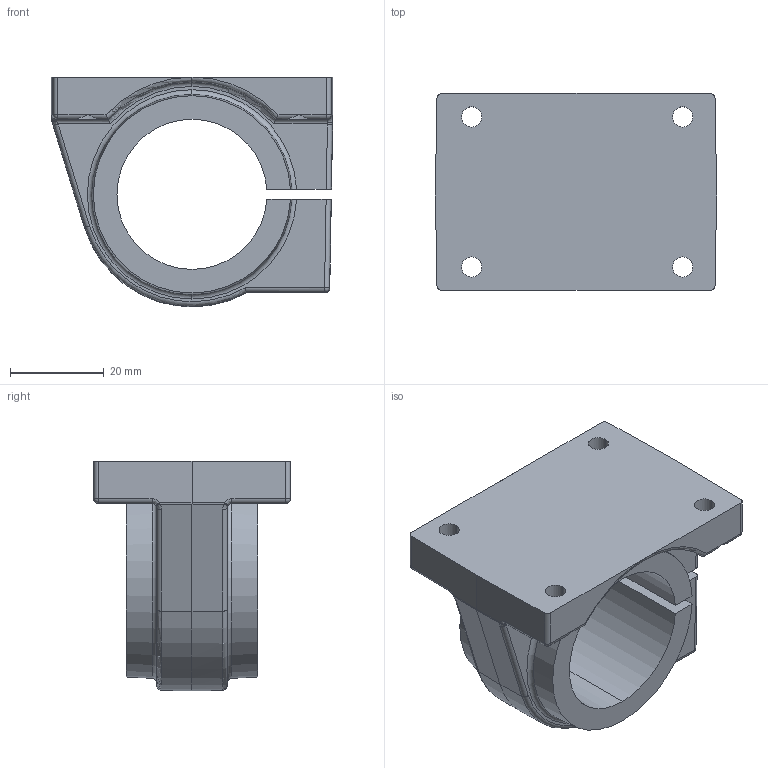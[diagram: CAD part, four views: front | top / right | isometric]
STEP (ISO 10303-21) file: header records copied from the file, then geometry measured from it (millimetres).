
FILE_DESCRIPTION (( 'STEP AP203' ), '1' );
FILE_NAME ('KGGE66-20.step', '2020-03-10T16:26:20', ( '' ), ( '' ), 'SwSTEP 2.0', 'SolidWorks 2019', '' );
FILE_SCHEMA (( 'CONFIG_CONTROL_DESIGN' ));
Length unit declared in the file: millimetre
Products named in the file (2): KGGE66-20
Bounding box: 59.98 x 42 x 49 mm (x, y, z)
Volume: 41365.8 mm3; surface area: 15521.1 mm2
Topology: 1 solids, 1 shells, 143 faces, 348 edges, 204 vertices
Faces by surface type: cylinder 64, plane 36, torus 16, cone 11, bspline 8, sphere 8
Entity records: 4565 total; most frequent: CARTESIAN_POINT 1150, DIRECTION 699, ORIENTED_EDGE 688, EDGE_CURVE 344, AXIS2_PLACEMENT_3D 281, VERTEX_POINT 204, EDGE_LOOP 154, CIRCLE 144
